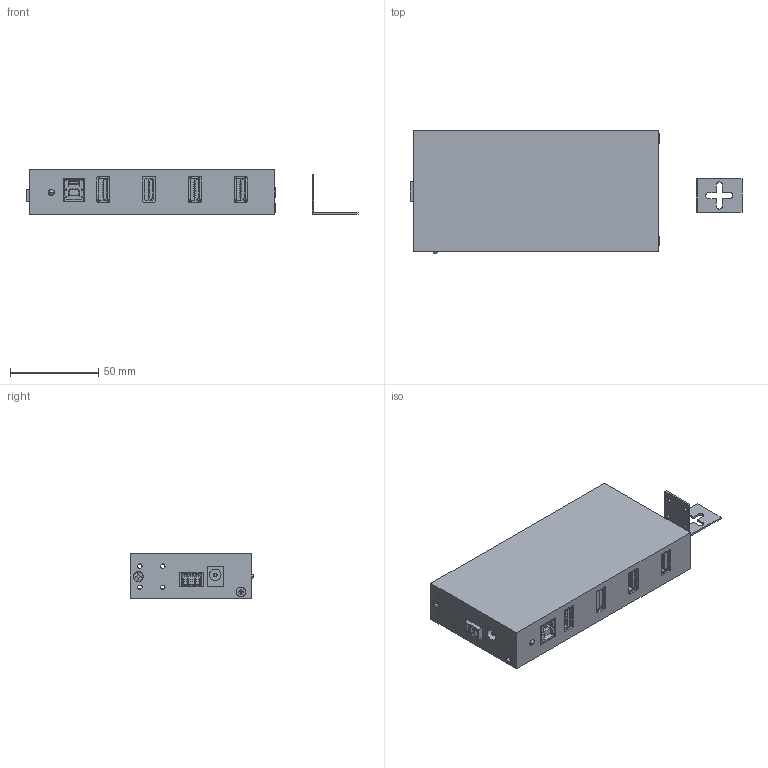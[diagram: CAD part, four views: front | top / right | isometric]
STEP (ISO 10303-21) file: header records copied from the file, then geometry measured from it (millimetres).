
FILE_DESCRIPTION(('FreeCAD Model'),'2;1');
FILE_NAME('Open CASCADE Shape Model','2022-09-09T12:57:13',(''),(''), 'Open CASCADE STEP processor 7.6','FreeCAD','Unknown');
FILE_SCHEMA(('AUTOMOTIVE_DESIGN { 1 0 10303 214 1 1 1 1 }'));
Length unit declared in the file: millimetre
Products named in the file (3): Unbenannt3; Wallmount-Kit; EX-11234HMS_3D
Assembly tree (2 placements, depth 2):
  Unbenannt3
    Wallmount-Kit
    EX-11234HMS_3D
Bounding box: 188 x 69.77 x 25 mm (x, y, z)
Surface area: 86957.9 mm2
Topology: 6 solids, 7 shells, 2914 faces, 8553 edges, 5711 vertices
Faces by surface type: plane 2335, cylinder 395, cone 110, torus 62, sphere 12
Full cylindrical faces by diameter (mm): 1.567 x5, 2 x6, 2.459 x4, 2.5 x17, 2.6 x3, 3 x8, 3.2 x1, 3.4 x1, 3.5 x1, 4 x5, 5.5 x4, 6 x5, 6.5 x1
Entity records: 253021 total; most frequent: CARTESIAN_POINT 72824, DIRECTION 29404, LINE 20226, VECTOR 20226, ORIENTED_EDGE 17072, PCURVE 17072, DEFINITIONAL_REPRESENTATION 17072, EDGE_CURVE 8543
